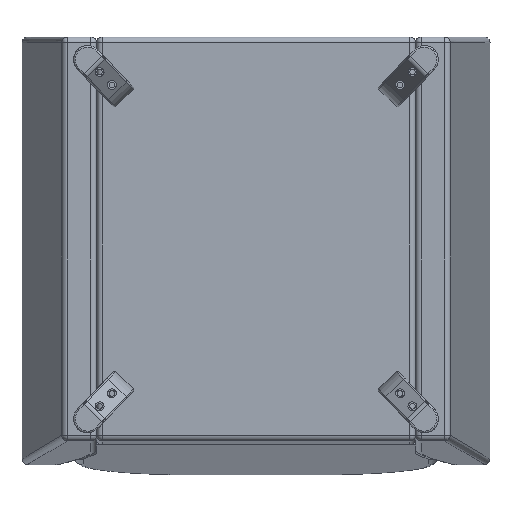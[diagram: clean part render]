
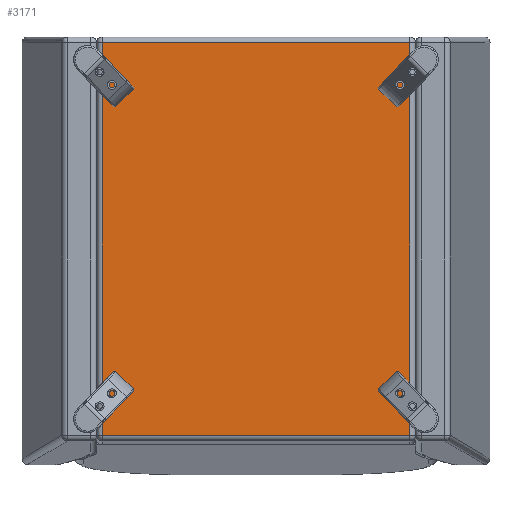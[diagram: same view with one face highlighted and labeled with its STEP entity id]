
A CAD part, front view. The second image highlights one B-rep face of the part: STEP entity #3171.
In plain terms, the highlighted planar face has unit normal (0, -1, 0).
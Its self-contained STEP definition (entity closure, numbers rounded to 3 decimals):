
#120=PLANE('',#3453);
#352=FACE_OUTER_BOUND('',#569,.T.);
#569=EDGE_LOOP('',(#2262,#2263,#2264,#2265));
#807=LINE('',#4836,#998);
#810=LINE('',#4842,#1001);
#812=LINE('',#4854,#1003);
#815=LINE('',#4864,#1006);
#998=VECTOR('',#3891,1000.);
#1001=VECTOR('',#3898,1000.);
#1003=VECTOR('',#3914,1000.);
#1006=VECTOR('',#3925,1000.);
#1355=VERTEX_POINT('',#4823);
#1359=VERTEX_POINT('',#4834);
#1360=VERTEX_POINT('',#4839);
#1362=VERTEX_POINT('',#4850);
#1671=EDGE_CURVE('',#1355,#1359,#807,.T.);
#1675=EDGE_CURVE('',#1360,#1355,#810,.T.);
#1681=EDGE_CURVE('',#1362,#1360,#812,.T.);
#1686=EDGE_CURVE('',#1359,#1362,#815,.T.);
#2262=ORIENTED_EDGE('',*,*,#1681,.T.);
#2263=ORIENTED_EDGE('',*,*,#1675,.T.);
#2264=ORIENTED_EDGE('',*,*,#1671,.T.);
#2265=ORIENTED_EDGE('',*,*,#1686,.T.);
#3171=ADVANCED_FACE('',(#352),#120,.T.);
#3453=AXIS2_PLACEMENT_3D('',#4884,#3953,#3954);
#3891=DIRECTION('',(0.,0.,1.));
#3898=DIRECTION('',(1.,0.,0.));
#3914=DIRECTION('',(0.,0.,-1.));
#3925=DIRECTION('',(-1.,0.,0.));
#3953=DIRECTION('center_axis',(0.,-1.,0.));
#3954=DIRECTION('ref_axis',(0.,0.,-1.));
#4823=CARTESIAN_POINT('',(275.,165.,-367.91));
#4834=CARTESIAN_POINT('',(275.,165.,334.163));
#4836=CARTESIAN_POINT('',(275.,165.,344.163));
#4839=CARTESIAN_POINT('',(-275.,165.,-367.91));
#4842=CARTESIAN_POINT('',(-285.,165.,-367.91));
#4850=CARTESIAN_POINT('',(-275.,165.,334.163));
#4854=CARTESIAN_POINT('',(-275.,165.,-377.073));
#4864=CARTESIAN_POINT('',(-285.,165.,334.163));
#4884=CARTESIAN_POINT('Origin',(-285.,165.,344.163));
